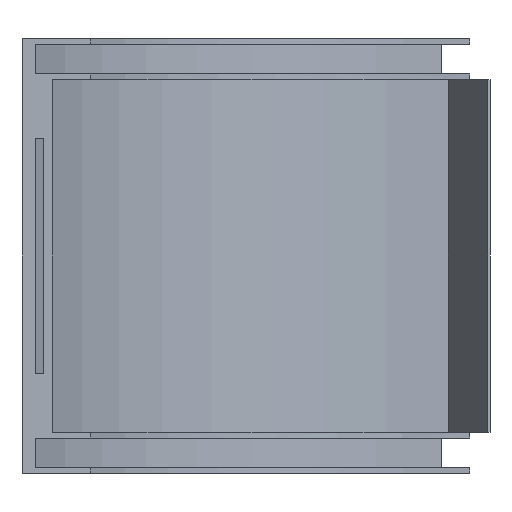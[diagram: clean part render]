
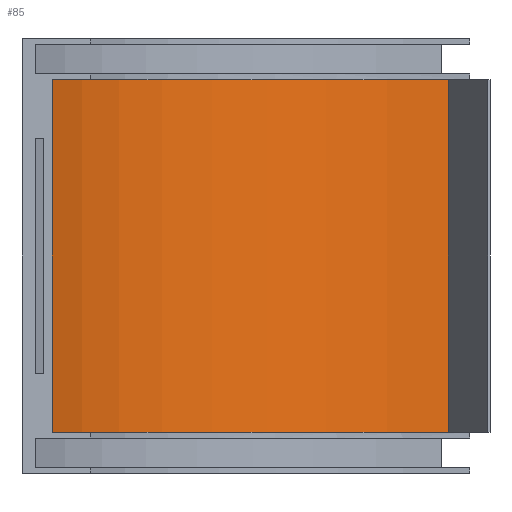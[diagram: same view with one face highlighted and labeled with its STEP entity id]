
A CAD part, left-side view. The second image highlights one B-rep face of the part: STEP entity #85.
In plain terms, the highlighted cylindrical face has radius 77.5 mm (diameter 155 mm), a partial arc.
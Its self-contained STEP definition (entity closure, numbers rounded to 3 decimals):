
#85=ADVANCED_FACE('',(#324),#326,.F.);
#324=FACE_BOUND('',#325,.T.);
#325=EDGE_LOOP('',(#524,#525,#526,#527));
#326=CYLINDRICAL_SURFACE('',#327,77.5);
#327=AXIS2_PLACEMENT_3D('',#328,#329,#330);
#328=CARTESIAN_POINT('',(-80.,80.,7.));
#329=DIRECTION('',(-0.,-0.,-1.));
#330=DIRECTION('',(0.,1.,0.));
#524=ORIENTED_EDGE('',*,*,#670,.F.);
#525=ORIENTED_EDGE('',*,*,#664,.F.);
#526=ORIENTED_EDGE('',*,*,#671,.T.);
#527=ORIENTED_EDGE('',*,*,#666,.T.);
#664=EDGE_CURVE('',#760,#754,#762,.T.);
#666=EDGE_CURVE('',#766,#763,#767,.T.);
#670=EDGE_CURVE('',#754,#763,#773,.F.);
#671=EDGE_CURVE('',#760,#766,#774,.F.);
#754=VERTEX_POINT('',#915);
#760=VERTEX_POINT('',#928);
#762=CIRCLE('',#932,77.5);
#763=VERTEX_POINT('',#936);
#766=VERTEX_POINT('',#941);
#767=CIRCLE('',#942,77.5);
#773=LINE('',#958,#959);
#774=LINE('',#961,#962);
#915=CARTESIAN_POINT('',(-2.571,83.31,67.));
#928=CARTESIAN_POINT('',(-48.976,151.019,67.));
#932=AXIS2_PLACEMENT_3D('',#933,#934,#935);
#933=CARTESIAN_POINT('',(-80.,80.,67.));
#934=DIRECTION('',(0.,0.,-1.));
#935=DIRECTION('',(0.4,0.916,0.));
#936=CARTESIAN_POINT('',(-2.571,83.31,7.));
#941=CARTESIAN_POINT('',(-48.976,151.019,7.));
#942=AXIS2_PLACEMENT_3D('',#943,#944,#945);
#943=CARTESIAN_POINT('',(-80.,80.,7.));
#944=DIRECTION('',(0.,0.,-1.));
#945=DIRECTION('',(0.4,0.916,0.));
#958=CARTESIAN_POINT('',(-2.571,83.31,7.));
#959=VECTOR('',#960,1.);
#960=DIRECTION('',(0.,0.,1.));
#961=CARTESIAN_POINT('',(-48.976,151.019,7.));
#962=VECTOR('',#963,1.);
#963=DIRECTION('',(0.,0.,1.));
